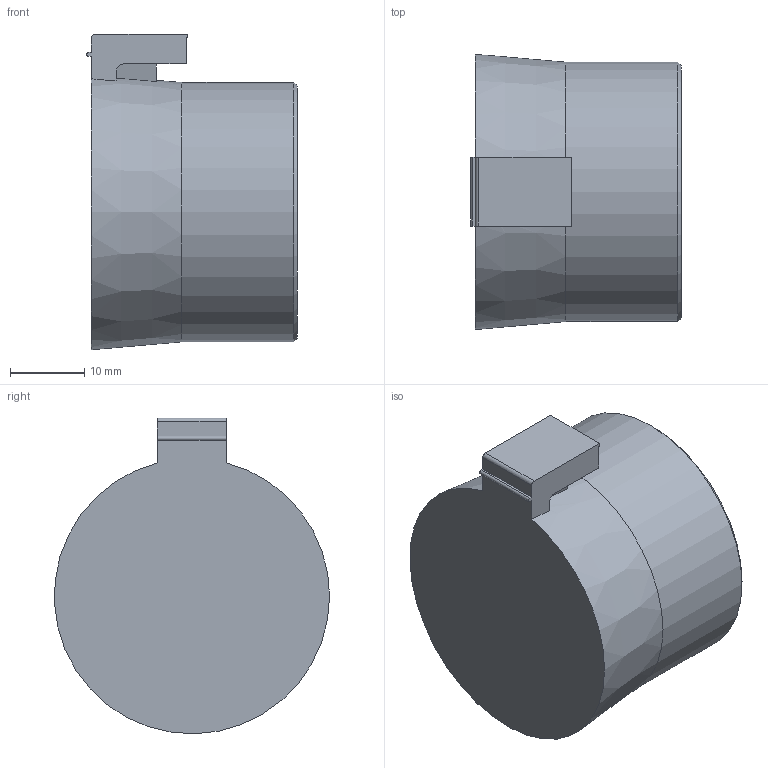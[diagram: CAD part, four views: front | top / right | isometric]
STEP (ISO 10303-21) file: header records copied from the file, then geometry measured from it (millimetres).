
FILE_DESCRIPTION((''),'2;1');
FILE_NAME('C:\SapWorkDir\Inventor\MP1\ConvertTempPath\87_12_109339_01_A_141104_BTG-XL.stp','2015-08-11T08:16:51',(''),(''),'Autodesk Inventor 2012','Autodesk Inventor 2012','');
FILE_SCHEMA(('AUTOMOTIVE_DESIGN { 1 0 10303 214 1 1 1 1 }'));
Length unit declared in the file: millimetre
Products named in the file (1): 109339;01;BTG-XL
Bounding box: 28.4 x 37.11 x 42.56 mm (x, y, z)
Volume: 28067.4 mm3; surface area: 5487.1 mm2
Topology: 1 solids, 1 shells, 25 faces, 69 edges, 46 vertices
Faces by surface type: plane 17, cylinder 6, cone 2
Full cylindrical faces by diameter (mm): 35 x1
Entity records: 838 total; most frequent: CARTESIAN_POINT 140, DIRECTION 132, ORIENTED_EDGE 130, EDGE_CURVE 65, VECTOR 46, LINE 46, VERTEX_POINT 45, AXIS2_PLACEMENT_3D 43
